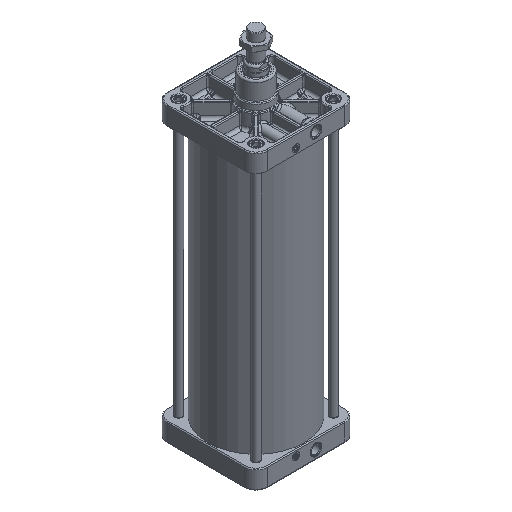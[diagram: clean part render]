
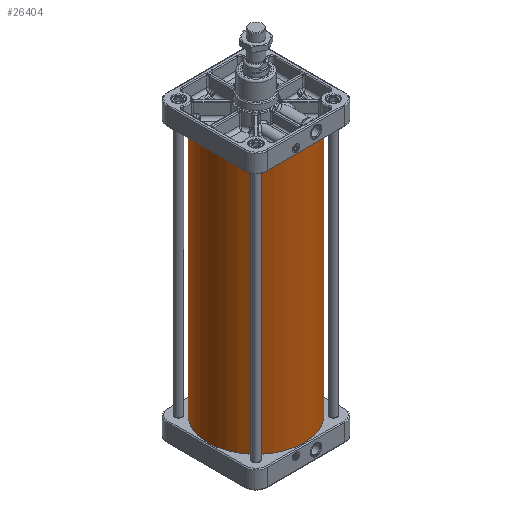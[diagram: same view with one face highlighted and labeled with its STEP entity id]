
A CAD part, isometric view. The second image highlights one B-rep face of the part: STEP entity #26404.
In plain terms, the highlighted cylindrical face has radius 168 mm (diameter 336 mm), a full revolution.
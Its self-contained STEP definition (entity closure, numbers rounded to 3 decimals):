
#2804=CIRCLE('',#29645,168.);
#2805=CIRCLE('',#29647,168.);
#3478=FACE_BOUND('',#7098,.T.);
#5147=FACE_OUTER_BOUND('',#7097,.T.);
#7097=EDGE_LOOP('',(#22547));
#7098=EDGE_LOOP('',(#22548));
#11979=VERTEX_POINT('',#64759);
#11980=VERTEX_POINT('',#64762);
#15511=EDGE_CURVE('',#11979,#11979,#2804,.T.);
#15512=EDGE_CURVE('',#11980,#11980,#2805,.T.);
#22547=ORIENTED_EDGE('',*,*,#15511,.T.);
#22548=ORIENTED_EDGE('',*,*,#15512,.T.);
#23070=CYLINDRICAL_SURFACE('',#29646,168.);
#26404=ADVANCED_FACE('',(#5147,#3478),#23070,.T.);
#29645=AXIS2_PLACEMENT_3D('',#64760,#36878,#36879);
#29646=AXIS2_PLACEMENT_3D('',#64761,#36880,#36881);
#29647=AXIS2_PLACEMENT_3D('',#64763,#36882,#36883);
#36878=DIRECTION('center_axis',(0.,0.,1.));
#36879=DIRECTION('ref_axis',(-1.,0.,0.));
#36880=DIRECTION('center_axis',(0.,0.,1.));
#36881=DIRECTION('ref_axis',(-1.,0.,0.));
#36882=DIRECTION('center_axis',(0.,0.,-1.));
#36883=DIRECTION('ref_axis',(-1.,0.,0.));
#64759=CARTESIAN_POINT('',(168.,0.,-445.));
#64760=CARTESIAN_POINT('Origin',(0.,0.,-445.));
#64761=CARTESIAN_POINT('Origin',(0.,0.,0.));
#64762=CARTESIAN_POINT('',(168.,0.,445.));
#64763=CARTESIAN_POINT('Origin',(0.,0.,445.));
